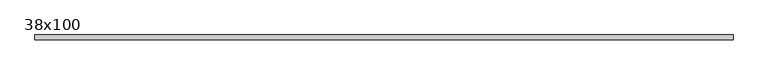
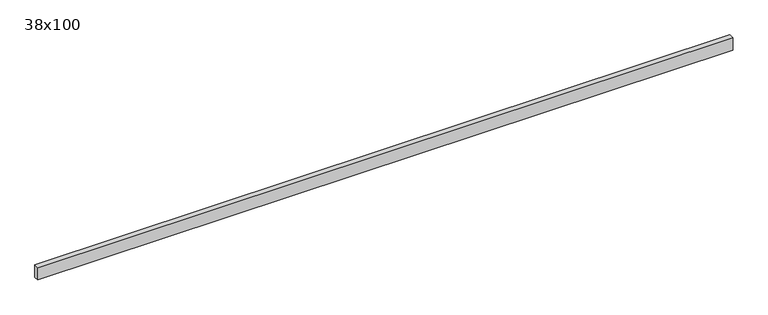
"""IFC4 building model written with IfcOpenShell, lengths in millimetres: beam geometry, Poutre - Bois de construction de dimensions courantes : 38x100."""

from ifc_helpers import new_model, si_unit, frame, origin, place, context, project, spatial, polyline, outline, extrude, source, transform, mapped, element, save


def beam_38x100_8ca4c219(model_context):
    return source(origin(), model_context, "Body", "SweptSolid", [
        extrude(outline(polyline([(2644.5, 19.05), (2644.5, -19.05), (-2644.5, -19.05), (-2644.5, 19.05), (2644.5, 19.05)])), frame((0.0, 0.0, -50.0), z_axis=(0.0, 0.0, 1.0), x_axis=(1.0, 0.0, 0.0)), (0.0, 0.0, 1.0), 100.0),
    ])


if __name__ == "__main__":
    model = new_model("IFC4")
    model_context = context("Model", 3, world=origin())
    ifc_project = project(units=[si_unit("LENGTHUNIT", "METRE", prefix="MILLI")], contexts=[model_context])
    site = spatial("IfcSite", under=ifc_project)
    building = spatial("IfcBuilding", under=site)
    placement = place(None, origin())
    beam_38x100_shape = beam_38x100_8ca4c219(model_context)
    element("IfcBeam", 1, ObjectType="Poutre - Bois de construction de dimensions courantes : 38x100", at=placement, inside=building, context=model_context, shape_type="MappedRepresentation", body=[
        mapped(beam_38x100_shape, transform((0.0, 0.0, 0.0), x_axis=(1.0, 0.0, 0.0), y_axis=(0.0, 1.0, 0.0), z_axis=(0.0, 0.0, 1.0))),
    ])
    save(model, "model.ifc")
